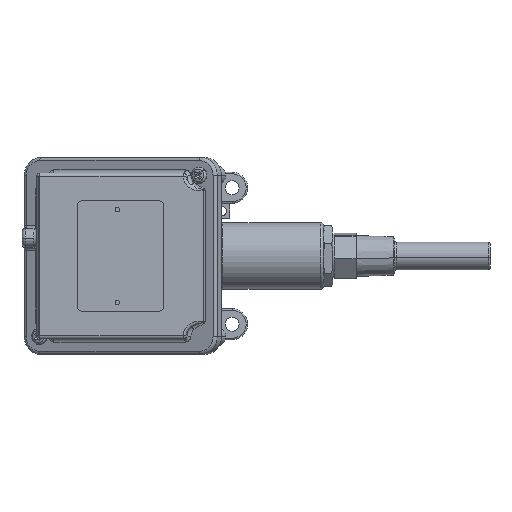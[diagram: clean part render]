
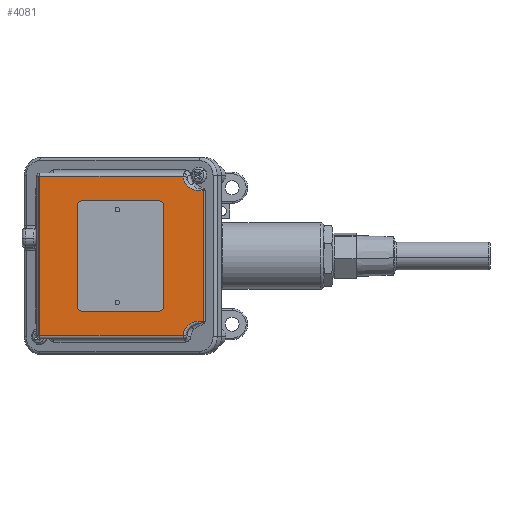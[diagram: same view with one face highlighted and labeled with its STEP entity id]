
A CAD part, left-side view. The second image highlights one B-rep face of the part: STEP entity #4081.
In plain terms, the highlighted planar face has unit normal (-1, 0.005, 0).
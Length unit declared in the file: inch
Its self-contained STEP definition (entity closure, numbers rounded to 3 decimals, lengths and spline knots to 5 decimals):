
#409 = ORIENTED_EDGE ( 'NONE', *, *, #15457, .F. ) ;
#671 = CARTESIAN_POINT ( 'NONE',  ( -2.3055, 3.50088, 1.61 ) ) ;
#693 = DIRECTION ( 'NONE',  ( 0., 0., -1. ) ) ;
#705 = EDGE_CURVE ( 'NONE', #25862, #16778, #15525, .T. ) ;
#719 = CARTESIAN_POINT ( 'NONE',  ( -2.32159, 0.41746, 1.27099 ) ) ;
#993 = CARTESIAN_POINT ( 'NONE',  ( -2.31365, 1.9384, -0.938 ) ) ;
#1019 = CARTESIAN_POINT ( 'NONE',  ( -2.31341, 1.9849, -0.938 ) ) ;
#2033 = CARTESIAN_POINT ( 'NONE',  ( -2.31341, 1.9849, 0.937 ) ) ;
#2036 = LINE ( 'NONE', #18226, #14282 ) ;
#2106 = DIRECTION ( 'NONE',  ( -0.005, -1., 0. ) ) ;
#2150 = CARTESIAN_POINT ( 'NONE',  ( -2.32276, 0.19397, -1.32146 ) ) ;
#2560 = LINE ( 'NONE', #22859, #11725 ) ;
#2630 = CARTESIAN_POINT ( 'NONE',  ( -2.31365, 1.9384, 0.937 ) ) ;
#3356 = LINE ( 'NONE', #21672, #9155 ) ;
#4081 = ADVANCED_FACE ( 'NONE', ( #16906, #12774, #24523 ), #16519, .F. ) ;
#4890 = ORIENTED_EDGE ( 'NONE', *, *, #705, .T. ) ;
#5174 = EDGE_LOOP ( 'NONE', ( #409, #8802 ) ) ;
#5497 = ORIENTED_EDGE ( 'NONE', *, *, #12639, .T. ) ;
#6168 = CARTESIAN_POINT ( 'NONE',  ( -2.32063, 0.60182, -1.39798 ) ) ;
#6608 = DIRECTION ( 'NONE',  ( 1., -0.005, 0. ) ) ;
#7532 = EDGE_LOOP ( 'NONE', ( #24446, #10852 ) ) ;
#7576 = AXIS2_PLACEMENT_3D ( 'NONE', #993, #17193, #21711 ) ;
#8651 = DIRECTION ( 'NONE',  ( -1., 0.005, 0. ) ) ;
#8735 = CARTESIAN_POINT ( 'NONE',  ( -2.32276, 0.19397, 1.32146 ) ) ;
#8802 = ORIENTED_EDGE ( 'NONE', *, *, #8857, .F. ) ;
#8857 = EDGE_CURVE ( 'NONE', #26275, #11088, #10073, .T. ) ;
#9155 = VECTOR ( 'NONE', #23937, 39.37008 ) ;
#9181 = EDGE_CURVE ( 'NONE', #18151, #24347, #25311, .T. ) ;
#10073 = CIRCLE ( 'NONE', #23284, 0.0465 ) ;
#10099 = CARTESIAN_POINT ( 'NONE',  ( -2.32276, 0.19397, -1.32146 ) ) ;
#10215 = DIRECTION ( 'NONE',  ( 0.005, 1., 0. ) ) ;
#10403 = DIRECTION ( 'NONE',  ( -0.005, -1., 0. ) ) ;
#10572 = DIRECTION ( 'NONE',  ( -1., 0.005, 0. ) ) ;
#10852 = ORIENTED_EDGE ( 'NONE', *, *, #14479, .F. ) ;
#11088 = VERTEX_POINT ( 'NONE', #19275 ) ;
#11725 = VECTOR ( 'NONE', #693, 39.37008 ) ;
#11943 = CARTESIAN_POINT ( 'NONE',  ( -2.32159, 0.41746, -1.27099 ) ) ;
#12333 = CARTESIAN_POINT ( 'NONE',  ( -2.32057, 0.61286, -1.61 ) ) ;
#12620 = DIRECTION ( 'NONE',  ( -0.005, -1., 0. ) ) ;
#12639 = EDGE_CURVE ( 'NONE', #16778, #14440, #2036, .T. ) ;
#12754 = CARTESIAN_POINT ( 'NONE',  ( -2.31365, 1.9384, -0.938 ) ) ;
#12774 = FACE_BOUND ( 'NONE', #5174, .T. ) ;
#13962 = CIRCLE ( 'NONE', #19928, 0.0465 ) ;
#14282 = VECTOR ( 'NONE', #10215, 39.37008 ) ;
#14351 =( BOUNDED_CURVE ( )  B_SPLINE_CURVE ( 3, ( #12333, #6168, #11943, #2150 ),
 .UNSPECIFIED., .F., .T. ) 
 B_SPLINE_CURVE_WITH_KNOTS ( ( 4, 4 ),
 ( 3.18961, 4.95247 ),
 .UNSPECIFIED. ) 
 CURVE ( )  GEOMETRIC_REPRESENTATION_ITEM ( )  RATIONAL_B_SPLINE_CURVE ( ( 1., 0.757, 0.757, 1. ) ) 
 REPRESENTATION_ITEM ( '' )  );
#14440 = VERTEX_POINT ( 'NONE', #671 ) ;
#14479 = EDGE_CURVE ( 'NONE', #24347, #18151, #13962, .T. ) ;
#14723 = ORIENTED_EDGE ( 'NONE', *, *, #24491, .T. ) ;
#15457 = EDGE_CURVE ( 'NONE', #11088, #26275, #19536, .T. ) ;
#15525 =( BOUNDED_CURVE ( )  B_SPLINE_CURVE ( 3, ( #8735, #719, #24650, #20769 ),
 .UNSPECIFIED., .F., .T. ) 
 B_SPLINE_CURVE_WITH_KNOTS ( ( 4, 4 ),
 ( 1.33072, 3.09357 ),
 .UNSPECIFIED. ) 
 CURVE ( )  GEOMETRIC_REPRESENTATION_ITEM ( )  RATIONAL_B_SPLINE_CURVE ( ( 1., 0.757, 0.757, 1. ) ) 
 REPRESENTATION_ITEM ( '' )  );
#15982 = CARTESIAN_POINT ( 'NONE',  ( -2.32057, 0.61286, 1.61 ) ) ;
#16241 = VECTOR ( 'NONE', #2106, 39.37008 ) ;
#16519 = PLANE ( 'NONE',  #22923 ) ;
#16530 = EDGE_LOOP ( 'NONE', ( #20874, #26340, #23829, #14723, #4890, #5497 ) ) ;
#16778 = VERTEX_POINT ( 'NONE', #15982 ) ;
#16906 = FACE_BOUND ( 'NONE', #7532, .T. ) ;
#17193 = DIRECTION ( 'NONE',  ( -1., 0.005, 0. ) ) ;
#18044 = AXIS2_PLACEMENT_3D ( 'NONE', #2630, #8651, #10403 ) ;
#18151 = VERTEX_POINT ( 'NONE', #20678 ) ;
#18226 = CARTESIAN_POINT ( 'NONE',  ( -2.32282, 0.18143, 1.61 ) ) ;
#18647 = CARTESIAN_POINT ( 'NONE',  ( -2.32282, 0.18143, 1.6725 ) ) ;
#18718 = DIRECTION ( 'NONE',  ( -0.005, -1., 0. ) ) ;
#18772 = DIRECTION ( 'NONE',  ( 0.005, 1., 0. ) ) ;
#19126 = EDGE_CURVE ( 'NONE', #25228, #21141, #22286, .T. ) ;
#19275 = CARTESIAN_POINT ( 'NONE',  ( -2.31389, 1.8919, -0.938 ) ) ;
#19536 = CIRCLE ( 'NONE', #7576, 0.0465 ) ;
#19928 = AXIS2_PLACEMENT_3D ( 'NONE', #20727, #10572, #18718 ) ;
#20314 = VERTEX_POINT ( 'NONE', #10099 ) ;
#20591 = EDGE_CURVE ( 'NONE', #21141, #20314, #14351, .T. ) ;
#20678 = CARTESIAN_POINT ( 'NONE',  ( -2.31389, 1.8919, 0.937 ) ) ;
#20727 = CARTESIAN_POINT ( 'NONE',  ( -2.31365, 1.9384, 0.937 ) ) ;
#20769 = CARTESIAN_POINT ( 'NONE',  ( -2.32057, 0.61286, 1.61 ) ) ;
#20874 = ORIENTED_EDGE ( 'NONE', *, *, #24460, .T. ) ;
#21141 = VERTEX_POINT ( 'NONE', #23855 ) ;
#21672 = CARTESIAN_POINT ( 'NONE',  ( -2.32276, 0.19397, 1.6725 ) ) ;
#21711 = DIRECTION ( 'NONE',  ( -0.005, -1., 0. ) ) ;
#22286 = LINE ( 'NONE', #26456, #16241 ) ;
#22859 = CARTESIAN_POINT ( 'NONE',  ( -2.3055, 3.50088, 1.6725 ) ) ;
#22923 = AXIS2_PLACEMENT_3D ( 'NONE', #18647, #6608, #18772 ) ;
#23284 = AXIS2_PLACEMENT_3D ( 'NONE', #12754, #25173, #12620 ) ;
#23829 = ORIENTED_EDGE ( 'NONE', *, *, #20591, .T. ) ;
#23855 = CARTESIAN_POINT ( 'NONE',  ( -2.32057, 0.61286, -1.61 ) ) ;
#23937 = DIRECTION ( 'NONE',  ( 0., 0., 1. ) ) ;
#24347 = VERTEX_POINT ( 'NONE', #2033 ) ;
#24446 = ORIENTED_EDGE ( 'NONE', *, *, #9181, .F. ) ;
#24460 = EDGE_CURVE ( 'NONE', #14440, #25228, #2560, .T. ) ;
#24491 = EDGE_CURVE ( 'NONE', #20314, #25862, #3356, .T. ) ;
#24523 = FACE_OUTER_BOUND ( 'NONE', #16530, .T. ) ;
#24650 = CARTESIAN_POINT ( 'NONE',  ( -2.32063, 0.60182, 1.39798 ) ) ;
#25173 = DIRECTION ( 'NONE',  ( -1., 0.005, 0. ) ) ;
#25228 = VERTEX_POINT ( 'NONE', #25629 ) ;
#25274 = CARTESIAN_POINT ( 'NONE',  ( -2.32276, 0.19397, 1.32146 ) ) ;
#25311 = CIRCLE ( 'NONE', #18044, 0.0465 ) ;
#25629 = CARTESIAN_POINT ( 'NONE',  ( -2.3055, 3.50088, -1.61 ) ) ;
#25862 = VERTEX_POINT ( 'NONE', #25274 ) ;
#26275 = VERTEX_POINT ( 'NONE', #1019 ) ;
#26340 = ORIENTED_EDGE ( 'NONE', *, *, #19126, .T. ) ;
#26456 = CARTESIAN_POINT ( 'NONE',  ( -2.32081, 0.56672, -1.61 ) ) ;
